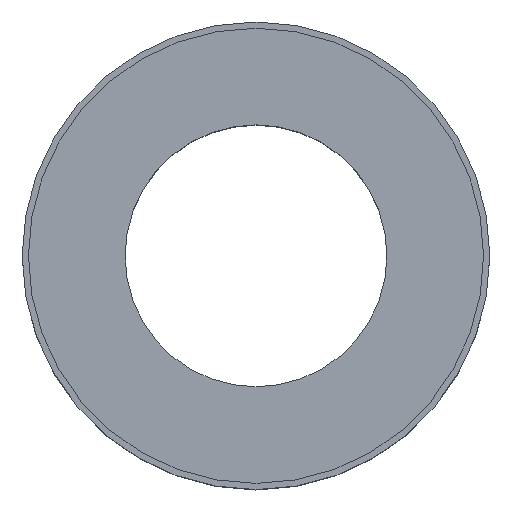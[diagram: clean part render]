
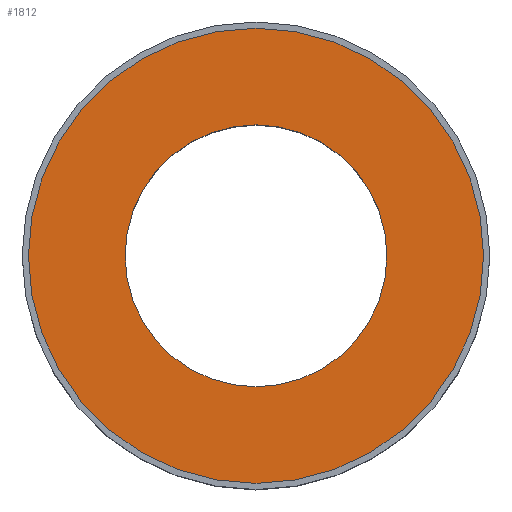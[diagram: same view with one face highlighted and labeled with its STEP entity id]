
A CAD part, top view. The second image highlights one B-rep face of the part: STEP entity #1812.
In plain terms, the highlighted planar face has unit normal (0, 0, 1).
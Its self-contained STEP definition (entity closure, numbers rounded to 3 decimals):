
#15 = DIRECTION ( 'NONE',  ( 0., 0., 1. ) ) ;
#23 = AXIS2_PLACEMENT_3D ( 'NONE', #195, #15, #1319 ) ;
#195 = CARTESIAN_POINT ( 'NONE',  ( 0., 0., 18. ) ) ;
#221 = CIRCLE ( 'NONE', #2438, 36.5 ) ;
#261 = DIRECTION ( 'NONE',  ( 0., 0., 1. ) ) ;
#294 = CARTESIAN_POINT ( 'NONE',  ( 0., 0., 18. ) ) ;
#314 = EDGE_LOOP ( 'NONE', ( #752, #2283 ) ) ;
#358 = ORIENTED_EDGE ( 'NONE', *, *, #647, .T. ) ;
#375 = CARTESIAN_POINT ( 'NONE',  ( 36.5, 0., 18. ) ) ;
#438 = EDGE_LOOP ( 'NONE', ( #358, #1051 ) ) ;
#488 = FACE_OUTER_BOUND ( 'NONE', #314, .T. ) ;
#530 = CARTESIAN_POINT ( 'NONE',  ( 0., 0., 18. ) ) ;
#641 = CARTESIAN_POINT ( 'NONE',  ( -36.5, 0., 18. ) ) ;
#647 = EDGE_CURVE ( 'NONE', #1156, #1581, #1212, .T. ) ;
#674 = EDGE_CURVE ( 'NONE', #1588, #2059, #221, .T. ) ;
#752 = ORIENTED_EDGE ( 'NONE', *, *, #2130, .T. ) ;
#841 = DIRECTION ( 'NONE',  ( -1., 0., 0. ) ) ;
#982 = PLANE ( 'NONE',  #2460 ) ;
#1033 = AXIS2_PLACEMENT_3D ( 'NONE', #1781, #1041, #841 ) ;
#1041 = DIRECTION ( 'NONE',  ( 0., 0., -1. ) ) ;
#1051 = ORIENTED_EDGE ( 'NONE', *, *, #1654, .T. ) ;
#1156 = VERTEX_POINT ( 'NONE', #2380 ) ;
#1199 = CARTESIAN_POINT ( 'NONE',  ( 21., 0., 18. ) ) ;
#1212 = CIRCLE ( 'NONE', #1033, 21. ) ;
#1253 = FACE_BOUND ( 'NONE', #438, .T. ) ;
#1285 = DIRECTION ( 'NONE',  ( -1., 0., 0. ) ) ;
#1319 = DIRECTION ( 'NONE',  ( 1., 0., 0. ) ) ;
#1573 = DIRECTION ( 'NONE',  ( 1., 0., 0. ) ) ;
#1581 = VERTEX_POINT ( 'NONE', #1199 ) ;
#1588 = VERTEX_POINT ( 'NONE', #641 ) ;
#1654 = EDGE_CURVE ( 'NONE', #1581, #1156, #2453, .T. ) ;
#1781 = CARTESIAN_POINT ( 'NONE',  ( 0., 0., 18. ) ) ;
#1812 = ADVANCED_FACE ( 'NONE', ( #1253, #488 ), #982, .T. ) ;
#1961 = CARTESIAN_POINT ( 'NONE',  ( -21., 0., 18. ) ) ;
#2059 = VERTEX_POINT ( 'NONE', #375 ) ;
#2130 = EDGE_CURVE ( 'NONE', #2059, #1588, #2329, .T. ) ;
#2225 = DIRECTION ( 'NONE',  ( 0., 0., -1. ) ) ;
#2283 = ORIENTED_EDGE ( 'NONE', *, *, #674, .T. ) ;
#2289 = AXIS2_PLACEMENT_3D ( 'NONE', #530, #2225, #1285 ) ;
#2300 = DIRECTION ( 'NONE',  ( 0., 0., 1. ) ) ;
#2313 = DIRECTION ( 'NONE',  ( 1., 0., 0. ) ) ;
#2329 = CIRCLE ( 'NONE', #23, 36.5 ) ;
#2380 = CARTESIAN_POINT ( 'NONE',  ( -21., 0., 18. ) ) ;
#2438 = AXIS2_PLACEMENT_3D ( 'NONE', #294, #261, #1573 ) ;
#2453 = CIRCLE ( 'NONE', #2289, 21. ) ;
#2460 = AXIS2_PLACEMENT_3D ( 'NONE', #1961, #2300, #2313 ) ;
